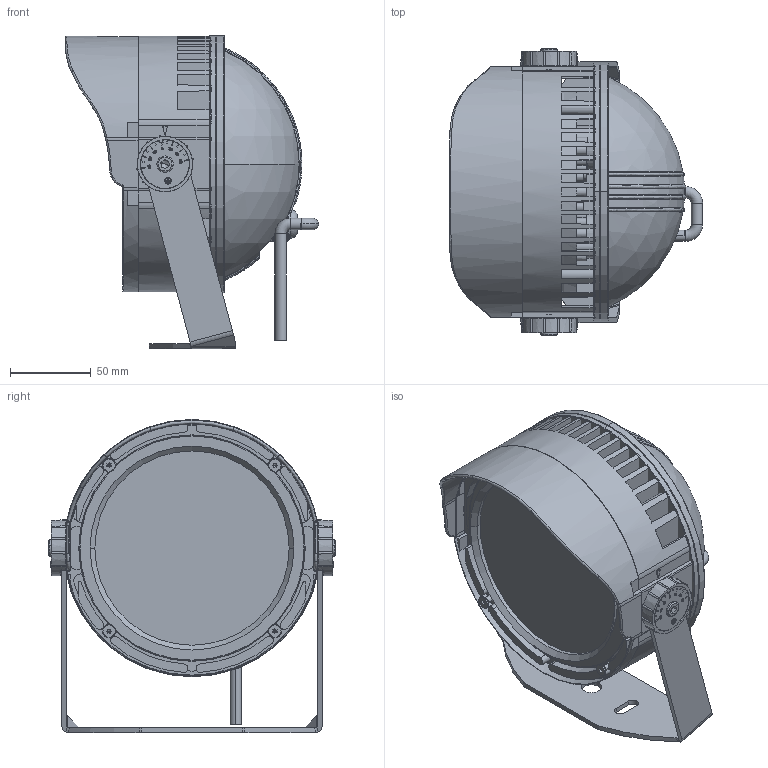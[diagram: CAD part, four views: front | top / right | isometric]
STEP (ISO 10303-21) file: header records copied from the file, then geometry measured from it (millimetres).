
FILE_DESCRIPTION((''),'2;1');
FILE_NAME('B3BI0170-0311_ASM_ASM','2022-03-11T',('Administrator'),(''),'CREO PARAMETRIC BY PTC INC, 2015290','CREO PARAMETRIC BY PTC INC, 2015290','');
FILE_SCHEMA(('CONFIG_CONTROL_DESIGN'));
Products named in the file (31): 3-_2_52_2; HEXAGON_SOCKET_COUNTERSUNK_HEAD; 3BD-P_________52_1; 3BP_52_1; B3BI__3; HEXAGON_SOCKET_HEAD_CAP_SCREWS_; CROSS_RECESSED_COUNTERSUNK_HEAD; ____1-52714_52_8; ____4-25163_2_3; ____52_ASM_52_ASM_1_ASM; PLAIN_WASHERS--PRODUCT_GRADE_C_; MANIFOLD_SOLID_BREP_225_2; B57-060_COB__1; 036B_1; PT-M3X6L_1; 90_25-ASM--160630-E_1__ASM_1_ASM; SJDIANPIAN_1; M3_24_5_1; M3_24_5-6_3_1D2_ASM_1_ASM; B3BITJYB_2; BOLI-00_10_2; PAD_1_135_1_1; FANGUANGSAI-1_1_135_1_1; FANGSHUISAI_1_135_2_1; POWER-LINE_8_1; PG9_ASM_1_ASM_1_ASM; FWOWANG-88-4_1; ASM0001_ASM_52_ASM_4_ASM; B3BI0170_ASM_3_ASM; 3001_10; B3BI0170-0311_ASM_ASM
Assembly tree (41 placements, depth 5):
  B3BI0170-0311_ASM_ASM
    B3BI0170_ASM_3_ASM
      ASM0001_ASM_52_ASM_4_ASM
        3-_2_52_2
        HEXAGON_SOCKET_COUNTERSUNK_HEAD  x4
        3BD-P_________52_1  x2
        3BP_52_1  x2
        B3BI__3
        HEXAGON_SOCKET_HEAD_CAP_SCREWS_  x2
        CROSS_RECESSED_COUNTERSUNK_HEAD  x2
        ____52_ASM_52_ASM_1_ASM
          ____1-52714_52_8
          ____4-25163_2_3
        PLAIN_WASHERS--PRODUCT_GRADE_C_
        90_25-ASM--160630-E_1__ASM_1_ASM
          MANIFOLD_SOLID_BREP_225_2
          B57-060_COB__1
          036B_1
          PT-M3X6L_1  x2
        M3_24_5-6_3_1D2_ASM_1_ASM  x3
          SJDIANPIAN_1
          M3_24_5_1
          PT-M3X6L_1
        B3BITJYB_2
        BOLI-00_10_2
        PG9_ASM_1_ASM_1_ASM
          PAD_1_135_1_1
          FANGUANGSAI-1_1_135_1_1
          FANGSHUISAI_1_135_2_1
          POWER-LINE_8_1
        FWOWANG-88-4_1
    3001_10
Bounding box: 156.49 x 177.2 x 193.5 mm (x, y, z)
Volume: 1137594.5 mm3; surface area: 441534.5 mm2
Topology: 39 solids, 41 shells, 6438 faces, 18050 edges, 11910 vertices
Faces by surface type: plane 4270, extrusion 851, cylinder 695, cone 400, torus 124, bspline 77, sphere 13, revolution 8
Entity records: 212596 total; most frequent: CARTESIAN_POINT 63660, ORIENTED_EDGE 32444, DIRECTION 27371, EDGE_CURVE 16222, VECTOR 12449, LINE 11784, VERTEX_POINT 10729, AXIS2_PLACEMENT_3D 7457
